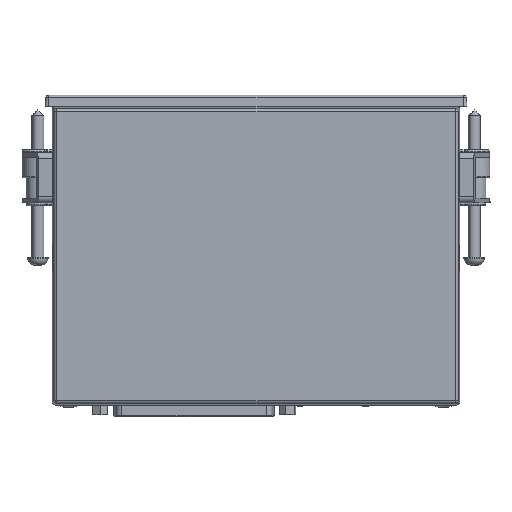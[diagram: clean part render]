
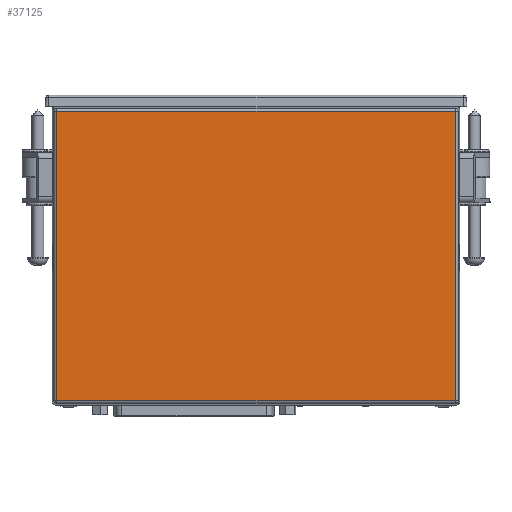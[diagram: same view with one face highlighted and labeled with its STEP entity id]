
A CAD part, front view. The second image highlights one B-rep face of the part: STEP entity #37125.
In plain terms, the highlighted planar face has unit normal (0, -1, 0).
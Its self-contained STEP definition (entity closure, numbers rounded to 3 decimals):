
#450 = VERTEX_POINT ( 'NONE', #42273 ) ;
#2995 = VERTEX_POINT ( 'NONE', #23376 ) ;
#13579 = CARTESIAN_POINT ( 'NONE',  ( -68.388, -21.5, -1.529 ) ) ;
#15309 = DIRECTION ( 'NONE',  ( 0., 0., 1. ) ) ;
#17295 = CARTESIAN_POINT ( 'NONE',  ( 67.471, -21.5, -99.471 ) ) ;
#18805 = DIRECTION ( 'NONE',  ( 0., 0., -1. ) ) ;
#18870 = ORIENTED_EDGE ( 'NONE', *, *, #38637, .T. ) ;
#19531 = DIRECTION ( 'NONE',  ( 1., 0., 0. ) ) ;
#20529 = CARTESIAN_POINT ( 'NONE',  ( 0., -21.5, 0. ) ) ;
#20860 = PLANE ( 'NONE',  #43206 ) ;
#23376 = CARTESIAN_POINT ( 'NONE',  ( -67.471, -21.5, -1.529 ) ) ;
#24057 = VECTOR ( 'NONE', #19531, 1000. ) ;
#28414 = LINE ( 'NONE', #39684, #36812 ) ;
#29798 = DIRECTION ( 'NONE',  ( 0., 0., -1. ) ) ;
#30600 = DIRECTION ( 'NONE',  ( -1., 0., 0. ) ) ;
#30730 = LINE ( 'NONE', #40310, #51316 ) ;
#32083 = VECTOR ( 'NONE', #30600, 1000. ) ;
#32127 = ORIENTED_EDGE ( 'NONE', *, *, #44812, .T. ) ;
#34230 = EDGE_CURVE ( 'NONE', #450, #2995, #67195, .T. ) ;
#36812 = VECTOR ( 'NONE', #18805, 1000. ) ;
#37125 = ADVANCED_FACE ( 'NONE', ( #46196 ), #20860, .T. ) ;
#38637 = EDGE_CURVE ( 'NONE', #2995, #41143, #28414, .T. ) ;
#39684 = CARTESIAN_POINT ( 'NONE',  ( -67.471, -21.5, -100.388 ) ) ;
#40310 = CARTESIAN_POINT ( 'NONE',  ( 67.471, -21.5, -0.612 ) ) ;
#41143 = VERTEX_POINT ( 'NONE', #63670 ) ;
#42273 = CARTESIAN_POINT ( 'NONE',  ( 67.471, -21.5, -1.529 ) ) ;
#43206 = AXIS2_PLACEMENT_3D ( 'NONE', #20529, #67067, #29798 ) ;
#44214 = EDGE_CURVE ( 'NONE', #67310, #450, #30730, .T. ) ;
#44812 = EDGE_CURVE ( 'NONE', #41143, #67310, #65712, .T. ) ;
#46196 = FACE_OUTER_BOUND ( 'NONE', #46967, .T. ) ;
#46967 = EDGE_LOOP ( 'NONE', ( #54425, #53894, #18870, #32127 ) ) ;
#49644 = CARTESIAN_POINT ( 'NONE',  ( 68.388, -21.5, -99.471 ) ) ;
#51316 = VECTOR ( 'NONE', #15309, 1000. ) ;
#53894 = ORIENTED_EDGE ( 'NONE', *, *, #34230, .T. ) ;
#54425 = ORIENTED_EDGE ( 'NONE', *, *, #44214, .T. ) ;
#63670 = CARTESIAN_POINT ( 'NONE',  ( -67.471, -21.5, -99.471 ) ) ;
#65712 = LINE ( 'NONE', #49644, #24057 ) ;
#67067 = DIRECTION ( 'NONE',  ( 0., -1., 0. ) ) ;
#67195 = LINE ( 'NONE', #13579, #32083 ) ;
#67310 = VERTEX_POINT ( 'NONE', #17295 ) ;
